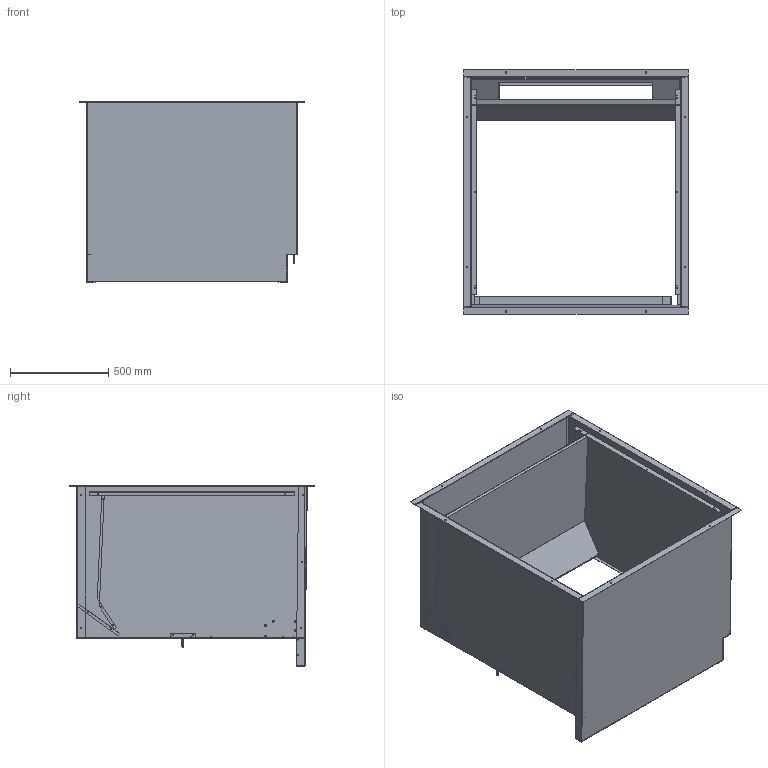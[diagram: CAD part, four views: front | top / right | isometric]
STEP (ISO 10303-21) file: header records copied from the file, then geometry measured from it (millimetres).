
FILE_DESCRIPTION (( 'STEP AP203' ), '1' );
FILE_NAME ('QWS48A-30.STEP', '2014-03-14T15:32:22', ( 'generic' ), ( 'Hewlett-Packard Company' ), 'SwSTEP 2.0', 'SolidWorks 2014', '' );
FILE_SCHEMA (( 'CONFIG_CONTROL_DESIGN' ));
Length unit declared in the file: inch
Products named in the file (10): 104-1060; 1012-036; 110-117; QWS48A-30; 110-116; 104-988; 110-118; 110-119; 120-392; 130-128
Assembly tree (12 placements, depth 2):
  QWS48A-30
    110-117
    110-116
    104-988  x2
    110-118
    110-119
    120-392
    130-128
    104-1060  x2
    1012-036  x2
Bounding box: 1140.39 x 1244.19 x 916.64 mm (x, y, z)
Volume: 7248690.1 mm3; surface area: 10348249.9 mm2
Topology: 12 solids, 12 shells, 961 faces, 2295 edges, 1350 vertices
Faces by surface type: plane 344, cylinder 313, cone 236, bspline 28, sphere 20, torus 20
Entity records: 25563 total; most frequent: CARTESIAN_POINT 5529, DIRECTION 4065, ORIENTED_EDGE 3824, EDGE_CURVE 1912, AXIS2_PLACEMENT_3D 1509, VERTEX_POINT 1141, VECTOR 1047, LINE 1047
